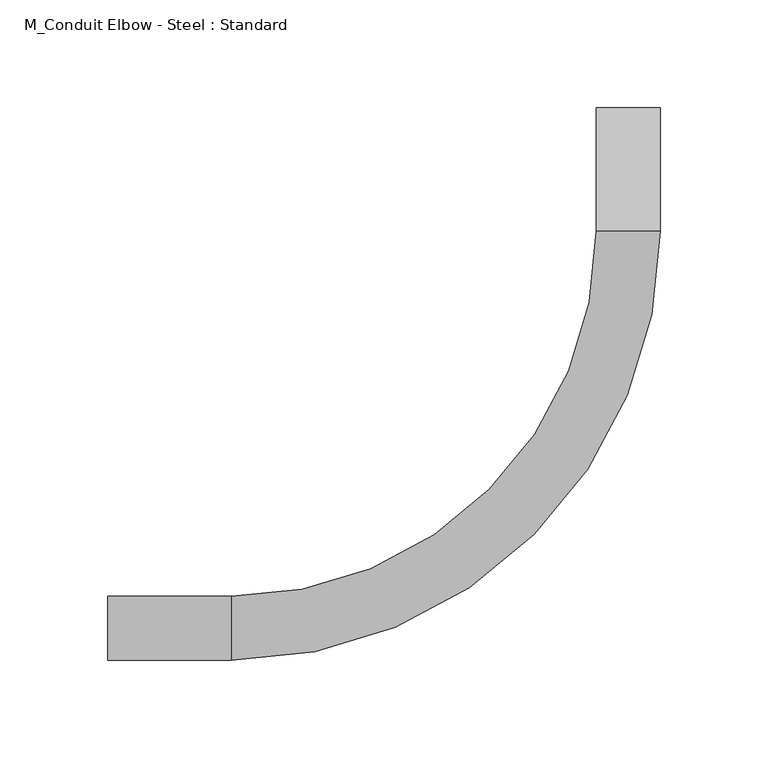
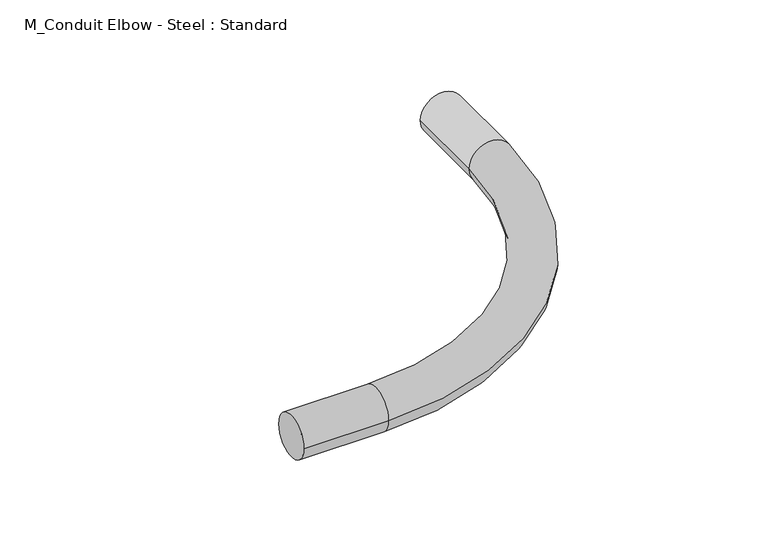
"""IFC4 building model written with IfcOpenShell, lengths in millimetres: cable carrier fitting geometry, M_Conduit Elbow - Steel : Standard."""

from ifc_helpers import new_model, si_unit, point, frame, origin, place, context, project, spatial, circle_curve, ellipse_curve, trimmed, source, transform, mapped, element, save
from ifc_brep_helpers import plane_surface, cylinder_surface, revolved_surface, advanced_brep


def m_conduit_elbow_steel_standard_c9f8af3b(model_context):
    return source(origin(), model_context, "Body", "AdvancedBrep", [
        advanced_brep(
        [(-241.3, -14.7701, 0.0), (-241.3, 14.7701, 0.0), (-184.15, -14.7701, 0.0), (-184.15, 14.7701, 0.0), (-14.7701, 184.15, 0.0), (14.7701, 184.15, 0.0), (14.7701, 241.3, 0.0), (-14.7701, 241.3, 0.0)],
        [
            (0, 1, circle_curve(frame((-241.3, 0.0, 0.0), z_axis=(-1.0, 0.0, 0.0), x_axis=(0.0, 1.0, 0.0)), 14.7701)),
            (1, 0, circle_curve(frame((-241.3, 0.0, 0.0), z_axis=(-1.0, 0.0, 0.0), x_axis=(0.0, 1.0, 0.0)), 14.7701)),
            (0, 2),
            (2, 3, circle_curve(frame((-184.15, 0.0, 0.0), z_axis=(-1.0, 0.0, 0.0), x_axis=(0.0, 1.0, 0.0)), 14.7701)),
            (3, 1),
            (3, 2, circle_curve(frame((-184.15, 0.0, 0.0), z_axis=(-1.0, 0.0, 0.0), x_axis=(0.0, 1.0, 0.0)), 14.7701)),
            (4, 3, circle_curve(frame((-184.15, 184.15, 0.0), z_axis=(0.0, 0.0, -1.0), x_axis=(0.0, -1.0, 0.0)), 169.3799)),
            (2, 5, circle_curve(frame((-184.15, 184.15, 0.0), z_axis=(0.0, 0.0, 1.0), x_axis=(0.0, -1.0, 0.0)), 198.9201)),
            (5, 4, circle_curve(frame((0.0, 184.15, 0.0), z_axis=(0.0, -1.0, 0.0), x_axis=(-1.0, 0.0, 0.0)), 14.7701)),
            (4, 5, circle_curve(frame((0.0, 184.15, 0.0), z_axis=(0.0, -1.0, 0.0), x_axis=(-1.0, 0.0, 0.0)), 14.7701)),
            (6, 7, circle_curve(frame((0.0, 241.3, 0.0), z_axis=(0.0, 1.0, 0.0), x_axis=(-1.0, 0.0, 0.0)), 14.7701)),
            (7, 6, circle_curve(frame((0.0, 241.3, 0.0), z_axis=(0.0, 1.0, 0.0), x_axis=(-1.0, 0.0, 0.0)), 14.7701)),
            (5, 6),
            (7, 4),
        ],
        [
            plane_surface(frame((-241.3, 0.0, 0.0), z_axis=(-1.0, 0.0, 0.0), x_axis=(0.0, 0.0, 1.0))),
            cylinder_surface(frame((-241.3, 0.0, 0.0), z_axis=(-1.0, 0.0, 0.0), x_axis=(0.0, 1.0, 0.0)), 14.7701),
            revolved_surface(trimmed(ellipse_curve(frame((-184.15, 0.0, 0.0), z_axis=(-1.0, 0.0, 0.0), x_axis=(0.0, 1.0, 0.0)), 14.7701, 14.7701), [point((-184.15, -14.7701, 0.0))], [point((-184.15, 14.7701, 0.0))], True, "CARTESIAN"), (-184.15, 184.15, 0.0), (0.0, 0.0, 1.0)),
            revolved_surface(trimmed(ellipse_curve(frame((-184.15, 0.0, 0.0), z_axis=(-1.0, 0.0, 0.0), x_axis=(0.0, 1.0, 0.0)), 14.7701, 14.7701), [point((-184.15, 14.7701, 0.0))], [point((-184.15, -14.7701, 0.0))], True, "CARTESIAN"), (-184.15, 184.15, 0.0), (0.0, 0.0, 1.0)),
            plane_surface(frame((0.0, 241.3, 0.0), z_axis=(0.0, 1.0, 0.0), x_axis=(0.0, 0.0, 1.0))),
            cylinder_surface(frame((0.0, 184.15, 0.0), z_axis=(0.0, -1.0, 0.0), x_axis=(-1.0, 0.0, 0.0)), 14.7701),
        ],
        [
            (0, [[1, 2]]),
            (1, [[-1, 3, 4, 5]]),
            (1, [[-2, -5, 6, -3]]),
            (2, [[7, -4, 8, 9]]),
            (3, [[-8, -6, -7, 10]]),
            (4, [[11, 12]]),
            (5, [[-9, 13, -12, 14]]),
            (5, [[-10, -14, -11, -13]]),
        ],
    ),
    ])


if __name__ == "__main__":
    model = new_model("IFC4")
    model_context = context("Model", 3, world=origin())
    ifc_project = project(units=[si_unit("LENGTHUNIT", "METRE", prefix="MILLI")], contexts=[model_context])
    site = spatial("IfcSite", under=ifc_project)
    building = spatial("IfcBuilding", under=site)
    placement = place(None, origin())
    m_conduit_elbow_steel_standard_shape = m_conduit_elbow_steel_standard_c9f8af3b(model_context)
    element("IfcCableCarrierFitting", 1, ObjectType="M_Conduit Elbow - Steel : Standard", at=placement, inside=building, context=model_context, shape_type="MappedRepresentation", body=[
        mapped(m_conduit_elbow_steel_standard_shape, transform((0.0, 0.0, 0.0), x_axis=(1.0, 0.0, 0.0), y_axis=(0.0, 1.0, 0.0), z_axis=(0.0, 0.0, 1.0))),
    ])
    save(model, "model.ifc")
